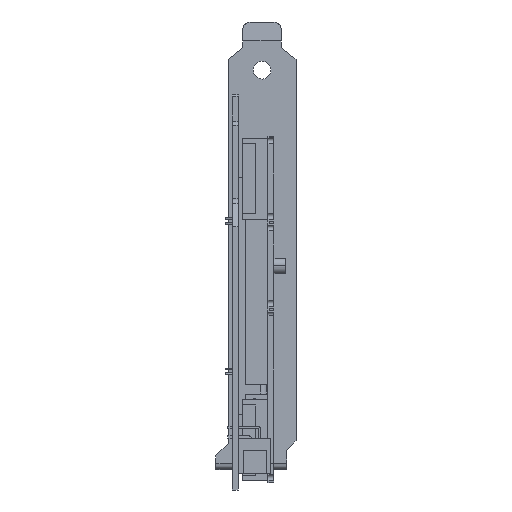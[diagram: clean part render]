
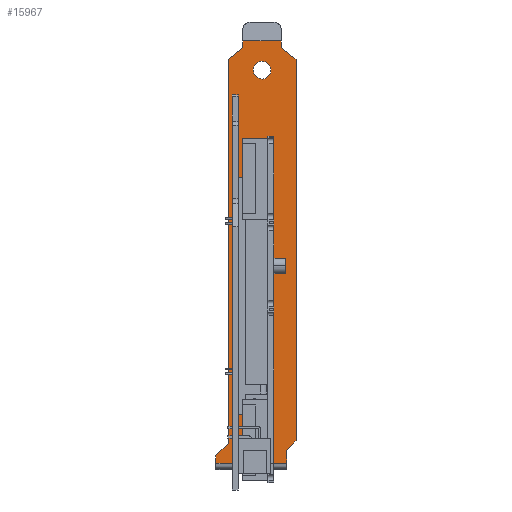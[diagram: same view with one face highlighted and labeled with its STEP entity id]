
A CAD part, front view. The second image highlights one B-rep face of the part: STEP entity #15967.
In plain terms, the highlighted planar face has unit normal (0, -1, 0).
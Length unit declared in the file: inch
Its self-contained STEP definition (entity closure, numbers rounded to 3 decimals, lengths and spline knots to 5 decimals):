
#2397=DIRECTION('',(1.,0.,0.));
#2398=VECTOR('',#2397,0.41339);
#2399=CARTESIAN_POINT('',(0.02204,0.33,-3.20287));
#2400=LINE('',#2399,#2398);
#2437=DIRECTION('',(1.,0.,0.));
#2438=VECTOR('',#2437,0.412);
#2439=CARTESIAN_POINT('',(0.108,0.33,0.764));
#2440=LINE('',#2439,#2438);
#2441=DIRECTION('',(0.,0.,-1.));
#2442=VECTOR('',#2441,0.074);
#2443=CARTESIAN_POINT('',(0.52,0.33,0.764));
#2444=LINE('',#2443,#2442);
#2445=DIRECTION('',(-0.788,0.,0.616));
#2446=VECTOR('',#2445,0.1967);
#2447=CARTESIAN_POINT('',(0.675,0.33,0.5689));
#2448=LINE('',#2447,#2446);
#2449=DIRECTION('',(0.707,0.,0.707));
#2450=VECTOR('',#2449,0.14142);
#2451=CARTESIAN_POINT('',(0.575,0.33,-3.583));
#2452=LINE('',#2451,#2450);
#2453=DIRECTION('',(0.,0.,1.));
#2454=VECTOR('',#2453,0.137);
#2455=CARTESIAN_POINT('',(0.575,0.33,-3.72));
#2456=LINE('',#2455,#2454);
#2457=DIRECTION('',(-1.,0.,0.));
#2458=VECTOR('',#2457,0.75);
#2459=CARTESIAN_POINT('',(0.575,0.33,-3.72));
#2460=LINE('',#2459,#2458);
#2461=DIRECTION('',(-0.707,0.,-0.707));
#2462=VECTOR('',#2461,0.18102);
#2463=CARTESIAN_POINT('',(-0.047,0.33,-3.514));
#2464=LINE('',#2463,#2462);
#2465=DIRECTION('',(0.,0.,-1.));
#2466=VECTOR('',#2465,4.0829);
#2467=CARTESIAN_POINT('',(-0.047,0.33,0.5689));
#2468=LINE('',#2467,#2466);
#2469=DIRECTION('',(-0.788,0.,-0.616));
#2470=VECTOR('',#2469,0.1967);
#2471=CARTESIAN_POINT('',(0.108,0.33,0.69));
#2472=LINE('',#2471,#2470);
#2473=DIRECTION('',(0.,0.,-1.));
#2474=VECTOR('',#2473,0.074);
#2475=CARTESIAN_POINT('',(0.108,0.33,0.764));
#2476=LINE('',#2475,#2474);
#2477=CARTESIAN_POINT('',(0.314,0.33,0.453));
#2478=DIRECTION('',(0.,1.,0.));
#2479=DIRECTION('',(0.,0.,1.));
#2480=AXIS2_PLACEMENT_3D('',#2477,#2478,#2479);
#2482=CARTESIAN_POINT('',(0.314,0.33,0.453));
#2483=DIRECTION('',(0.,1.,0.));
#2484=DIRECTION('',(0.,0.,-1.));
#2485=AXIS2_PLACEMENT_3D('',#2482,#2483,#2484);
#2533=DIRECTION('',(0.,0.,1.));
#2534=VECTOR('',#2533,0.078);
#2535=CARTESIAN_POINT('',(-0.175,0.33,-3.72));
#2536=LINE('',#2535,#2534);
#2889=DIRECTION('',(0.,0.,1.));
#2890=VECTOR('',#2889,4.0519);
#2891=CARTESIAN_POINT('',(0.675,0.33,-3.483));
#2892=LINE('',#2891,#2890);
#3641=DIRECTION('',(1.,0.,0.));
#3642=VECTOR('',#3641,0.41339);
#3643=CARTESIAN_POINT('',(0.02204,0.33,-0.68713));
#3644=LINE('',#3643,#3642);
#3681=DIRECTION('',(0.,0.,1.));
#3682=VECTOR('',#3681,2.51575);
#3683=CARTESIAN_POINT('',(0.43543,0.33,-3.20287));
#3684=LINE('',#3683,#3682);
#3751=DIRECTION('',(0.,0.,1.));
#3752=VECTOR('',#3751,2.51575);
#3753=CARTESIAN_POINT('',(0.02204,0.33,-3.20287));
#3754=LINE('',#3753,#3752);
#13866=CARTESIAN_POINT('',(-0.175,0.33,-3.72));
#13868=VERTEX_POINT('',#13866);
#13869=CARTESIAN_POINT('',(0.575,0.33,-3.72));
#13871=VERTEX_POINT('',#13869);
#13873=CARTESIAN_POINT('',(0.575,0.33,-3.583));
#13874=VERTEX_POINT('',#13873);
#13875=CARTESIAN_POINT('',(0.675,0.33,-3.483));
#13876=VERTEX_POINT('',#13875);
#13877=CARTESIAN_POINT('',(0.108,0.33,0.69));
#13878=CARTESIAN_POINT('',(-0.047,0.33,0.5689));
#13879=VERTEX_POINT('',#13877);
#13880=VERTEX_POINT('',#13878);
#13881=CARTESIAN_POINT('',(-0.047,0.33,-3.514));
#13882=VERTEX_POINT('',#13881);
#13883=CARTESIAN_POINT('',(-0.175,0.33,-3.642));
#13884=VERTEX_POINT('',#13883);
#13885=CARTESIAN_POINT('',(0.675,0.33,0.5689));
#13886=CARTESIAN_POINT('',(0.52,0.33,0.69));
#13887=VERTEX_POINT('',#13885);
#13888=VERTEX_POINT('',#13886);
#13997=CARTESIAN_POINT('',(0.314,0.33,0.5465));
#13998=CARTESIAN_POINT('',(0.314,0.33,0.3595));
#13999=VERTEX_POINT('',#13997);
#14000=VERTEX_POINT('',#13998);
#14001=CARTESIAN_POINT('',(0.108,0.33,0.764));
#14002=VERTEX_POINT('',#14001);
#14003=CARTESIAN_POINT('',(0.52,0.33,0.764));
#14004=VERTEX_POINT('',#14003);
#14041=CARTESIAN_POINT('',(0.02204,0.33,-3.20287));
#14042=CARTESIAN_POINT('',(0.43543,0.33,-3.20287));
#14043=VERTEX_POINT('',#14041);
#14044=VERTEX_POINT('',#14042);
#14045=CARTESIAN_POINT('',(0.02204,0.33,-0.68713));
#14046=CARTESIAN_POINT('',(0.43543,0.33,-0.68713));
#14047=VERTEX_POINT('',#14045);
#14048=VERTEX_POINT('',#14046);
#15921=CARTESIAN_POINT('',(0.675,0.33,-3.72));
#15922=DIRECTION('',(0.,1.,0.));
#15923=DIRECTION('',(0.,0.,1.));
#15924=AXIS2_PLACEMENT_3D('',#15921,#15922,#15923);
#15925=PLANE('',#15924);
#15927=ORIENTED_EDGE('',*,*,#15926,.T.);
#15929=ORIENTED_EDGE('',*,*,#15928,.T.);
#15931=ORIENTED_EDGE('',*,*,#15930,.F.);
#15933=ORIENTED_EDGE('',*,*,#15932,.F.);
#15935=ORIENTED_EDGE('',*,*,#15934,.F.);
#15937=ORIENTED_EDGE('',*,*,#15936,.F.);
#15939=ORIENTED_EDGE('',*,*,#15938,.T.);
#15941=ORIENTED_EDGE('',*,*,#15940,.T.);
#15943=ORIENTED_EDGE('',*,*,#15942,.F.);
#15945=ORIENTED_EDGE('',*,*,#15944,.F.);
#15947=ORIENTED_EDGE('',*,*,#15946,.F.);
#15949=ORIENTED_EDGE('',*,*,#15948,.F.);
#15950=EDGE_LOOP('',(#15927,#15929,#15931,#15933,#15935,#15937,#15939,#15941,
#15943,#15945,#15947,#15949));
#15951=FACE_OUTER_BOUND('',#15950,.F.);
#15953=ORIENTED_EDGE('',*,*,#15952,.F.);
#15955=ORIENTED_EDGE('',*,*,#15954,.F.);
#15956=EDGE_LOOP('',(#15953,#15955));
#15957=FACE_BOUND('',#15956,.F.);
#15958=ORIENTED_EDGE('',*,*,#15898,.T.);
#15960=ORIENTED_EDGE('',*,*,#15959,.T.);
#15962=ORIENTED_EDGE('',*,*,#15961,.F.);
#15964=ORIENTED_EDGE('',*,*,#15963,.F.);
#15965=EDGE_LOOP('',(#15958,#15960,#15962,#15964));
#15966=FACE_BOUND('',#15965,.F.);
#15967=ADVANCED_FACE('',(#15951,#15957,#15966),#15925,.F.);
#2481=CIRCLE('',#2480,0.0935);
#2486=CIRCLE('',#2485,0.0935);
#15898=EDGE_CURVE('',#14043,#14044,#2400,.T.);
#15926=EDGE_CURVE('',#14002,#14004,#2440,.T.);
#15928=EDGE_CURVE('',#14004,#13888,#2444,.T.);
#15930=EDGE_CURVE('',#13887,#13888,#2448,.T.);
#15932=EDGE_CURVE('',#13876,#13887,#2892,.T.);
#15934=EDGE_CURVE('',#13874,#13876,#2452,.T.);
#15936=EDGE_CURVE('',#13871,#13874,#2456,.T.);
#15938=EDGE_CURVE('',#13871,#13868,#2460,.T.);
#15940=EDGE_CURVE('',#13868,#13884,#2536,.T.);
#15942=EDGE_CURVE('',#13882,#13884,#2464,.T.);
#15944=EDGE_CURVE('',#13880,#13882,#2468,.T.);
#15946=EDGE_CURVE('',#13879,#13880,#2472,.T.);
#15948=EDGE_CURVE('',#14002,#13879,#2476,.T.);
#15952=EDGE_CURVE('',#13999,#14000,#2481,.T.);
#15954=EDGE_CURVE('',#14000,#13999,#2486,.T.);
#15959=EDGE_CURVE('',#14044,#14048,#3684,.T.);
#15961=EDGE_CURVE('',#14047,#14048,#3644,.T.);
#15963=EDGE_CURVE('',#14043,#14047,#3754,.T.);
